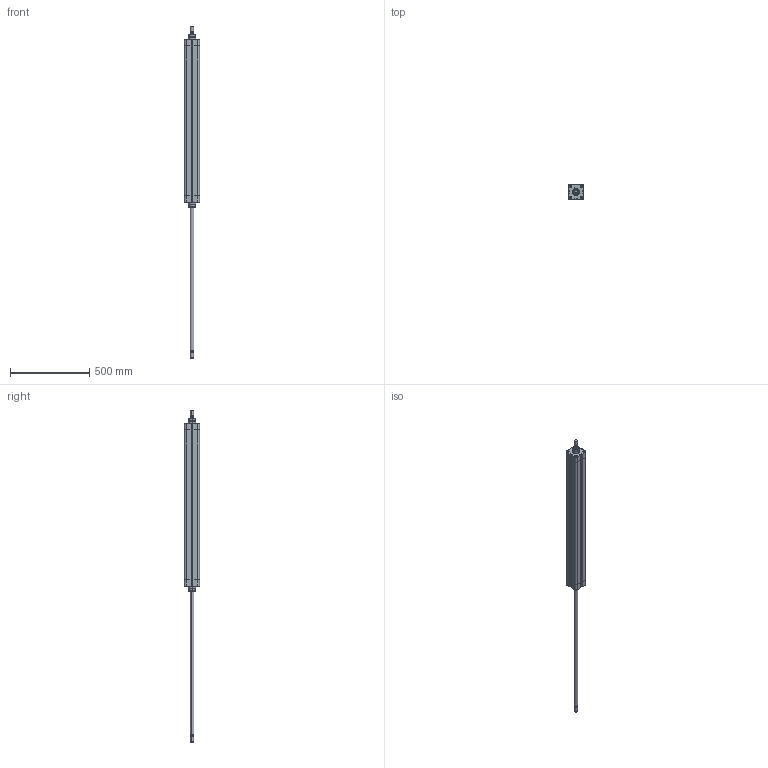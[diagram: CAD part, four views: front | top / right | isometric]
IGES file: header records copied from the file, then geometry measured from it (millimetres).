
Global section: file name: No Iges File Name specified; native system: AutoDesk Inventor R6.1; preprocessor: AutoDesk Inventor Iges Exporter R6.1; author: No Author specified; organization: No Organization specified; date: 20040107.171553; units: millimetre
Bounding box: 95.5 x 95.5 x 2100 mm (x, y, z)
Volume: 9566224 mm3; surface area: 709791 mm2
Topology: 2 solids, 2 shells, 236 faces, 564 edges, 356 vertices
Faces by surface type: plane 80, bspline 62, cylinder 42, revolution 32, cone 16, torus 4
